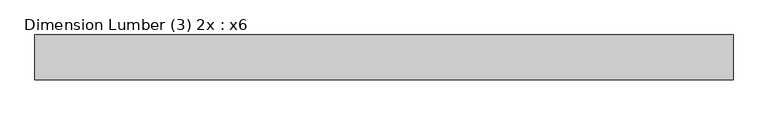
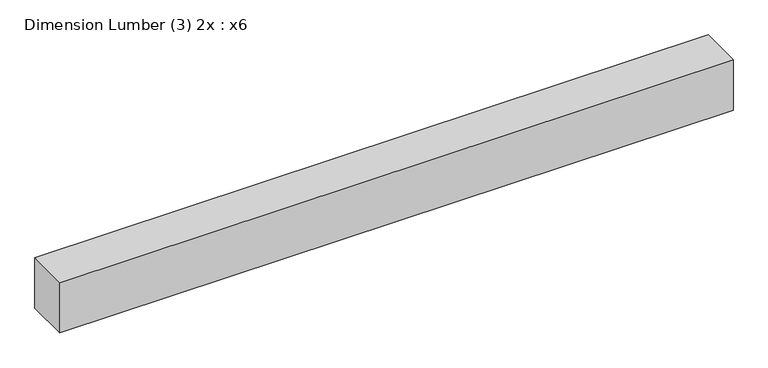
"""IFC4 building model written with IfcOpenShell, lengths in millimetres: beam geometry, Dimension Lumber (3) 2x : x6."""

from ifc_helpers import new_model, si_unit, frame, origin, place, context, project, spatial, polyline, outline, extrude, source, transform, mapped, element, save


def dimension_lumber_3_2x_x6_5fe60f67(model_context):
    return source(origin(), model_context, "Body", "SweptSolid", [
        extrude(outline(polyline([(746.7854, 57.15), (746.7854, -57.15), (-1024.8646, -57.15), (-1024.8646, 57.15), (746.7854, 57.15)])), frame((0.0, 0.0, -69.85), z_axis=(0.0, 0.0, 1.0), x_axis=(1.0, 0.0, 0.0)), (0.0, 0.0, 1.0), 139.7),
    ])


if __name__ == "__main__":
    model = new_model("IFC4")
    model_context = context("Model", 3, world=origin())
    ifc_project = project(units=[si_unit("LENGTHUNIT", "METRE", prefix="MILLI")], contexts=[model_context])
    site = spatial("IfcSite", under=ifc_project)
    building = spatial("IfcBuilding", under=site)
    placement = place(None, origin())
    dimension_lumber_3_2x_x6_shape = dimension_lumber_3_2x_x6_5fe60f67(model_context)
    element("IfcBeam", 1, ObjectType="Dimension Lumber (3) 2x : x6", at=placement, inside=building, context=model_context, shape_type="MappedRepresentation", body=[
        mapped(dimension_lumber_3_2x_x6_shape, transform((0.0, 0.0, 0.0), x_axis=(1.0, 0.0, 0.0), y_axis=(0.0, 1.0, 0.0), z_axis=(0.0, 0.0, 1.0))),
    ])
    save(model, "model.ifc")
